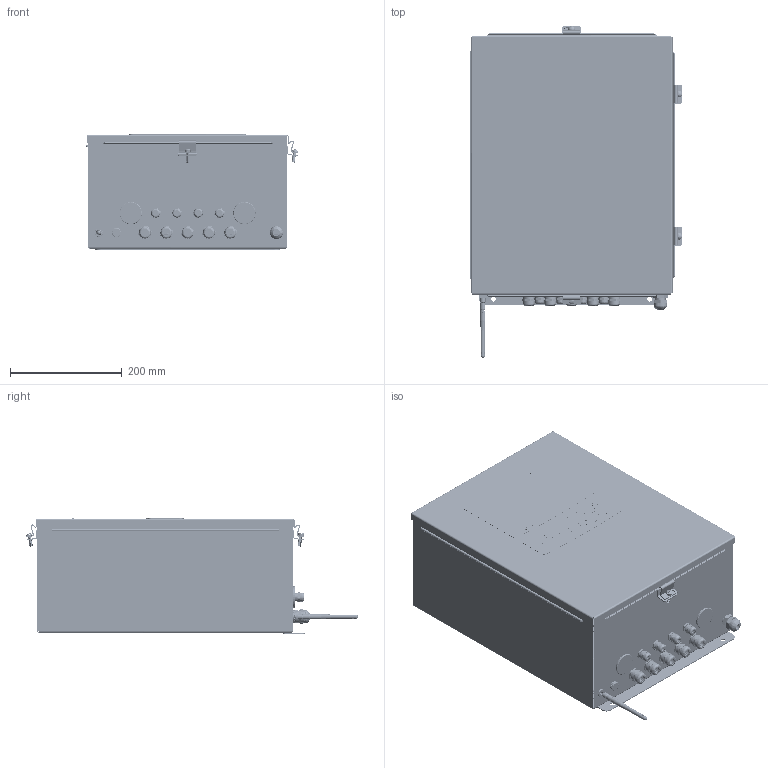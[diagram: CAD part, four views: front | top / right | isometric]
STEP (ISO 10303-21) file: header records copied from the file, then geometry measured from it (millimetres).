
FILE_DESCRIPTION (( 'STEP AP203' ), '1' );
FILE_NAME ('161037.STEP', '2024-11-10T15:50:39', ( '' ), ( '' ), 'SwSTEP 2.0', 'SolidWorks 2023', '' );
FILE_SCHEMA (( 'CONFIG_CONTROL_DESIGN' ));
Length unit declared in the file: inch
Products named in the file (1): 161037
Bounding box: 380.21 x 593.28 x 206.11 mm (x, y, z)
Surface area: 2797435 mm2 (no closed solid volume)
Topology: 0 solids, 456 shells, 16506 faces, 46807 edges, 31210 vertices
Faces by surface type: cylinder 6299, plane 6157, bspline 2005, cone 1566, torus 407, sphere 72
Entity records: 766322 total; most frequent: CARTESIAN_POINT 360645, ORIENTED_EDGE 88925, DIRECTION 77567, EDGE_CURVE 46740, VERTEX_POINT 31210, AXIS2_PLACEMENT_3D 26852, LINE 23863, VECTOR 23863
